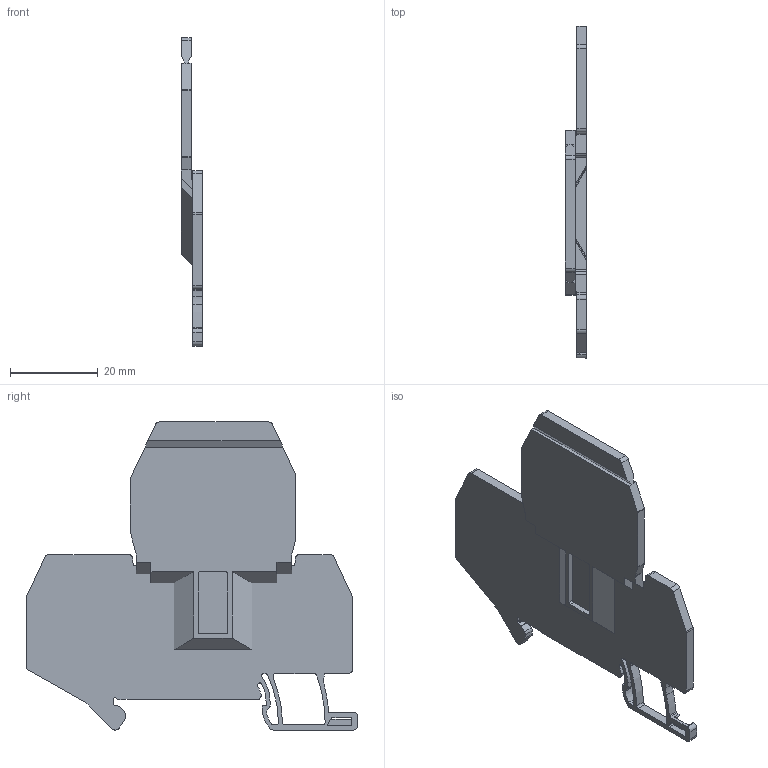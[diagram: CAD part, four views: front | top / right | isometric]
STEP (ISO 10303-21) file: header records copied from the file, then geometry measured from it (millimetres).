
FILE_DESCRIPTION( ('This file contains a STEP AP42 implementation' ,'as created by ZW3D STEP Interface translator.') ,'2;1' );
FILE_NAME( 'ATP-RUTTB煦郪路啣-耀倰.stp' ,'231227.162925', (''), ('ZWCAD Software Co.'), 'Version 1.0', 'ZW3D to STEP translator', '' );
FILE_SCHEMA(('AUTOMOTIVE_DESIGN { 1 0 10303 214 1 1 1 1 }'));
Length unit declared in the file: millimetre
Products named in the file (2): 0; RUT-RUTTB..OK
Bounding box: 4.78 x 75.45 x 70.05 mm (x, y, z)
Volume: 7144.4 mm3; surface area: 7908 mm2
Topology: 1 solids, 1 shells, 171 faces, 877 edges, 1079 vertices
Faces by surface type: plane 86, cylinder 85
Entity records: 8252 total; most frequent: CARTESIAN_POINT 1583, DIRECTION 1321, ORIENTED_EDGE 1012, VECTOR 675, LINE 675, EDGE_CURVE 506, STYLED_ITEM 371, TRIMMED_CURVE 340
